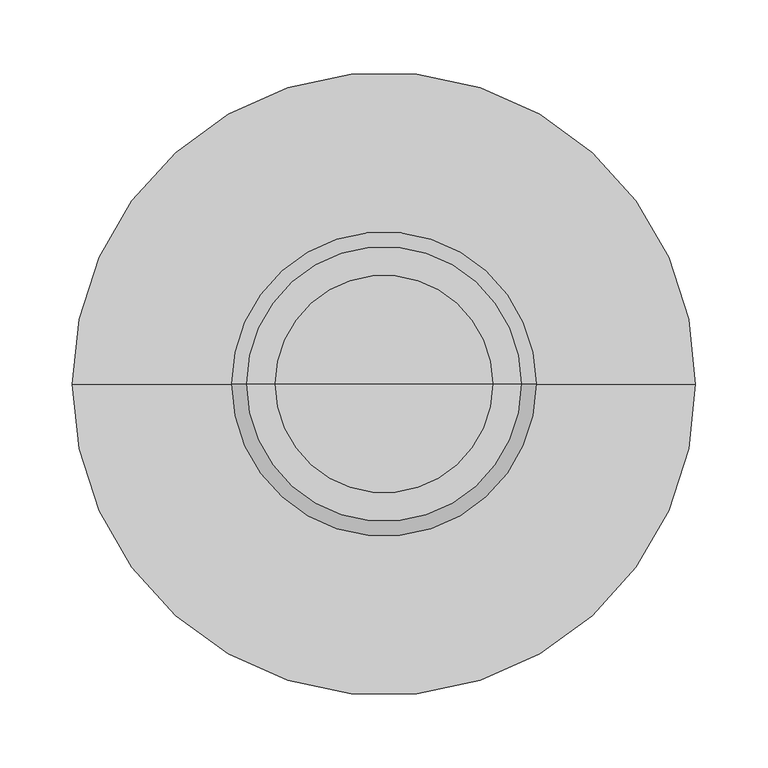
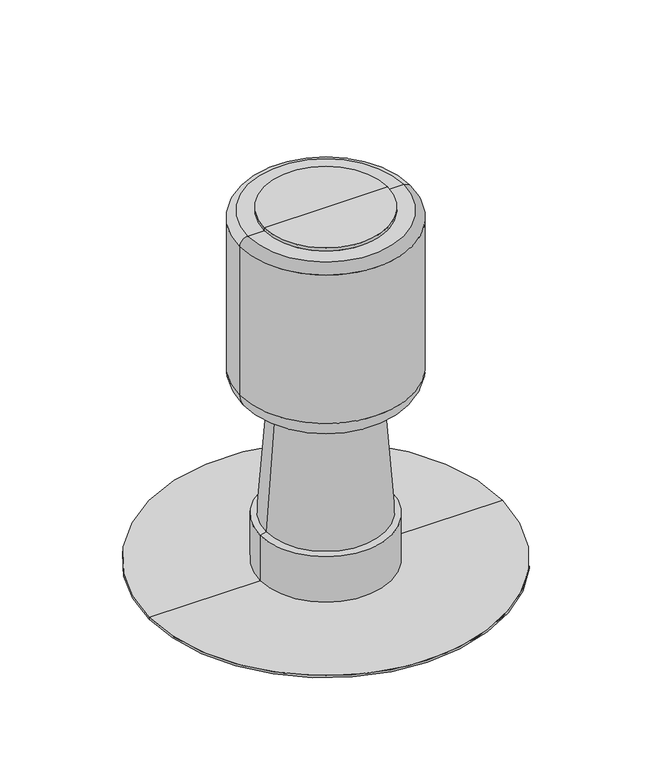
"""IFC4 building model written with IfcOpenShell, lengths in millimetres: flow terminal geometry, BIMLIB_Аэратор_Fachmann_А160х460 : А160х460."""

from ifc_helpers import new_model, si_unit, point, frame, origin, place, context, project, spatial, polyline, circle_curve, ellipse_curve, trimmed, source, transform, mapped, element, save
from ifc_brep_helpers import plane_surface, cylinder_surface, revolved_surface, advanced_brep


def flow_terminal_4346631b(model_context):
    return source(origin(), model_context, "Body", "AdvancedBrep", [
        advanced_brep(
        [(-215.0, 0.0, 0.0), (215.0, 0.0, 0.0), (0.0, 0.0, 0.0), (-215.0, 0.0, 2.6), (215.0, 0.0, 2.6), (-80.0, 0.0, 2.6), (80.0, 0.0, 2.6), (-80.0, 0.0, 61.0), (80.0, 0.0, 61.0), (-72.85, 0.0, 63.0), (72.85, 0.0, 63.0), (-60.9, 0.0, 225.0), (60.9, 0.0, 225.0), (-80.0, 0.0, 225.0), (80.0, 0.0, 225.0), (-105.0, 0.0, 250.0), (105.0, 0.0, 250.0), (-105.0, 0.0, 441.0), (105.0, 0.0, 441.0), (-95.0, 0.0, 451.0), (95.0, 0.0, 451.0), (-75.0, 0.0, 451.0), (75.0, 0.0, 451.0), (-75.0, 0.0, 455.0), (75.0, 0.0, 455.0), (0.0, 0.0, 455.0)],
        [
            (0, 1, circle_curve(frame((0.0, 0.0, 0.0), z_axis=(0.0, 0.0, -1.0), x_axis=(1.0, 0.0, 0.0)), 215.0)),
            (1, 2),
            (2, 0),
            (1, 0, circle_curve(frame((0.0, 0.0, 0.0), z_axis=(0.0, 0.0, -1.0), x_axis=(1.0, 0.0, 0.0)), 215.0)),
            (3, 4, circle_curve(frame((0.0, 0.0, 2.6), z_axis=(0.0, 0.0, -1.0), x_axis=(1.0, 0.0, 0.0)), 215.0)),
            (4, 1),
            (0, 3),
            (4, 3, circle_curve(frame((0.0, 0.0, 2.6), z_axis=(0.0, 0.0, -1.0), x_axis=(1.0, 0.0, 0.0)), 215.0)),
            (5, 6, circle_curve(frame((0.0, 0.0, 2.6), z_axis=(0.0, 0.0, -1.0), x_axis=(1.0, 0.0, 0.0)), 80.0)),
            (6, 4),
            (3, 5),
            (6, 5, circle_curve(frame((0.0, 0.0, 2.6), z_axis=(0.0, 0.0, -1.0), x_axis=(1.0, 0.0, 0.0)), 80.0)),
            (7, 8, circle_curve(frame((0.0, 0.0, 61.0), z_axis=(0.0, 0.0, -1.0), x_axis=(1.0, 0.0, 0.0)), 80.0)),
            (8, 6),
            (5, 7),
            (8, 7, circle_curve(frame((0.0, 0.0, 61.0), z_axis=(0.0, 0.0, -1.0), x_axis=(1.0, 0.0, 0.0)), 80.0)),
            (9, 10, circle_curve(frame((0.0, 0.0, 63.0), z_axis=(0.0, 0.0, -1.0), x_axis=(1.0, 0.0, 0.0)), 72.85)),
            (10, 8),
            (7, 9),
            (10, 9, circle_curve(frame((0.0, 0.0, 63.0), z_axis=(0.0, 0.0, -1.0), x_axis=(1.0, 0.0, 0.0)), 72.85)),
            (11, 12, circle_curve(frame((0.0, 0.0, 225.0), z_axis=(0.0, 0.0, -1.0), x_axis=(1.0, 0.0, 0.0)), 60.9)),
            (12, 10),
            (9, 11),
            (12, 11, circle_curve(frame((0.0, 0.0, 225.0), z_axis=(0.0, 0.0, -1.0), x_axis=(1.0, 0.0, 0.0)), 60.9)),
            (13, 14, circle_curve(frame((0.0, 0.0, 225.0), z_axis=(0.0, 0.0, -1.0), x_axis=(1.0, 0.0, 0.0)), 80.0)),
            (14, 12),
            (11, 13),
            (14, 13, circle_curve(frame((0.0, 0.0, 225.0), z_axis=(0.0, 0.0, -1.0), x_axis=(1.0, 0.0, 0.0)), 80.0)),
            (15, 16, circle_curve(frame((0.0, 0.0, 250.0), z_axis=(0.0, 0.0, -1.0), x_axis=(1.0, 0.0, 0.0)), 105.0)),
            (16, 14, circle_curve(frame((80.0, 0.0, 250.0), z_axis=(0.0, 1.0, 0.0), x_axis=(1.0, 0.0, 0.0)), 25.0)),
            (13, 15, circle_curve(frame((-80.0, 0.0, 250.0), z_axis=(0.0, 1.0, 0.0), x_axis=(-1.0, 0.0, 0.0)), 25.0)),
            (16, 15, circle_curve(frame((0.0, 0.0, 250.0), z_axis=(0.0, 0.0, -1.0), x_axis=(1.0, 0.0, 0.0)), 105.0)),
            (17, 18, circle_curve(frame((0.0, 0.0, 441.0), z_axis=(0.0, 0.0, -1.0), x_axis=(1.0, 0.0, 0.0)), 105.0)),
            (18, 16),
            (15, 17),
            (18, 17, circle_curve(frame((0.0, 0.0, 441.0), z_axis=(0.0, 0.0, -1.0), x_axis=(1.0, 0.0, 0.0)), 105.0)),
            (19, 20, circle_curve(frame((0.0, 0.0, 451.0), z_axis=(0.0, 0.0, -1.0), x_axis=(1.0, 0.0, 0.0)), 95.0)),
            (20, 18, circle_curve(frame((95.0, 0.0, 441.0), z_axis=(0.0, 1.0, 0.0), x_axis=(1.0, 0.0, 0.0)), 10.0)),
            (17, 19, circle_curve(frame((-95.0, 0.0, 441.0), z_axis=(0.0, 1.0, 0.0), x_axis=(-1.0, 0.0, 0.0)), 10.0)),
            (20, 19, circle_curve(frame((0.0, 0.0, 451.0), z_axis=(0.0, 0.0, -1.0), x_axis=(1.0, 0.0, 0.0)), 95.0)),
            (21, 22, circle_curve(frame((0.0, 0.0, 451.0), z_axis=(0.0, 0.0, -1.0), x_axis=(1.0, 0.0, 0.0)), 75.0)),
            (22, 20),
            (19, 21),
            (22, 21, circle_curve(frame((0.0, 0.0, 451.0), z_axis=(0.0, 0.0, -1.0), x_axis=(1.0, 0.0, 0.0)), 75.0)),
            (23, 24, circle_curve(frame((0.0, 0.0, 455.0), z_axis=(0.0, 0.0, -1.0), x_axis=(1.0, 0.0, 0.0)), 75.0)),
            (24, 22),
            (21, 23),
            (24, 23, circle_curve(frame((0.0, 0.0, 455.0), z_axis=(0.0, 0.0, -1.0), x_axis=(1.0, 0.0, 0.0)), 75.0)),
            (25, 24),
            (23, 25),
        ],
        [
            plane_surface(frame((0.0, 0.0, 0.0), z_axis=(0.0, 0.0, -1.0), x_axis=(1.0, 0.0, 0.0))),
            cylinder_surface(frame((0.0, 0.0, 555.0), z_axis=(0.0, 0.0, 1.0), x_axis=(1.0, 0.0, 0.0)), 215.0),
            plane_surface(frame((0.0, 0.0, 2.6), z_axis=(0.0, 0.0, 1.0), x_axis=(1.0, 0.0, 0.0))),
            cylinder_surface(frame((0.0, 0.0, 555.0), z_axis=(0.0, 0.0, 1.0), x_axis=(1.0, 0.0, 0.0)), 80.0),
            revolved_surface(polyline([(80.0, 0.0, 61.0), (72.85, 0.0, 63.0)]), (0.0, 0.0, 555.0), (0.0, 0.0, 1.0)),
            revolved_surface(polyline([(72.85, 0.0, 63.0), (60.9, 0.0, 225.0)]), (0.0, 0.0, 555.0), (0.0, 0.0, 1.0)),
            plane_surface(frame((0.0, 0.0, 225.0), z_axis=(0.0, 0.0, -1.0), x_axis=(1.0, 0.0, 0.0))),
            revolved_surface(trimmed(ellipse_curve(frame((80.0, 0.0, 250.0), z_axis=(0.0, -1.0, 0.0), x_axis=(1.0, 0.0, 0.0)), 25.0, 25.0), [point((80.0, 0.0, 225.0))], [point((105.0, 0.0, 250.0))], True, "CARTESIAN"), (0.0, 0.0, 555.0), (0.0, 0.0, 1.0)),
            cylinder_surface(frame((0.0, 0.0, 555.0), z_axis=(0.0, 0.0, 1.0), x_axis=(1.0, 0.0, 0.0)), 105.0),
            revolved_surface(trimmed(ellipse_curve(frame((95.0, 0.0, 441.0), z_axis=(0.0, -1.0, 0.0), x_axis=(1.0, 0.0, 0.0)), 10.0, 10.0), [point((105.0, 0.0, 441.0))], [point((95.0, 0.0, 451.0))], True, "CARTESIAN"), (0.0, 0.0, 555.0), (0.0, 0.0, 1.0)),
            plane_surface(frame((0.0, 0.0, 451.0), z_axis=(0.0, 0.0, 1.0), x_axis=(1.0, 0.0, 0.0))),
            cylinder_surface(frame((0.0, 0.0, 555.0), z_axis=(0.0, 0.0, 1.0), x_axis=(1.0, 0.0, 0.0)), 75.0),
            plane_surface(frame((0.0, 0.0, 455.0), z_axis=(0.0, 0.0, 1.0), x_axis=(1.0, 0.0, 0.0))),
        ],
        [
            (0, [[1, 2, 3]]),
            (0, [[4, -3, -2]]),
            (1, [[5, 6, -1, 7]]),
            (1, [[8, -7, -4, -6]]),
            (2, [[9, 10, -5, 11]]),
            (2, [[12, -11, -8, -10]]),
            (3, [[13, 14, -9, 15]]),
            (3, [[16, -15, -12, -14]]),
            (4, [[17, 18, -13, 19]]),
            (4, [[20, -19, -16, -18]]),
            (5, [[21, 22, -17, 23]]),
            (5, [[24, -23, -20, -22]]),
            (6, [[25, 26, -21, 27]]),
            (6, [[28, -27, -24, -26]]),
            (7, [[29, 30, -25, 31]]),
            (7, [[32, -31, -28, -30]]),
            (8, [[33, 34, -29, 35]]),
            (8, [[36, -35, -32, -34]]),
            (9, [[37, 38, -33, 39]]),
            (9, [[40, -39, -36, -38]]),
            (10, [[41, 42, -37, 43]]),
            (10, [[44, -43, -40, -42]]),
            (11, [[45, 46, -41, 47]]),
            (11, [[48, -47, -44, -46]]),
            (12, [[49, -45, 50]]),
            (12, [[-50, -48, -49]]),
        ],
    ),
    ])


if __name__ == "__main__":
    model = new_model("IFC4")
    model_context = context("Model", 3, world=origin())
    ifc_project = project(units=[si_unit("LENGTHUNIT", "METRE", prefix="MILLI")], contexts=[model_context])
    site = spatial("IfcSite", under=ifc_project)
    building = spatial("IfcBuilding", under=site)
    placement = place(None, origin())
    flow_terminal_shape = flow_terminal_4346631b(model_context)
    element("IfcFlowTerminal", 1, ObjectType="BIMLIB_Аэратор_Fachmann_А160х460 : А160х460", at=placement, inside=building, context=model_context, shape_type="MappedRepresentation", body=[
        mapped(flow_terminal_shape, transform((0.0, 0.0, 0.0), x_axis=(1.0, 0.0, 0.0), y_axis=(0.0, 1.0, 0.0), z_axis=(0.0, 0.0, 1.0))),
    ])
    save(model, "model.ifc")
